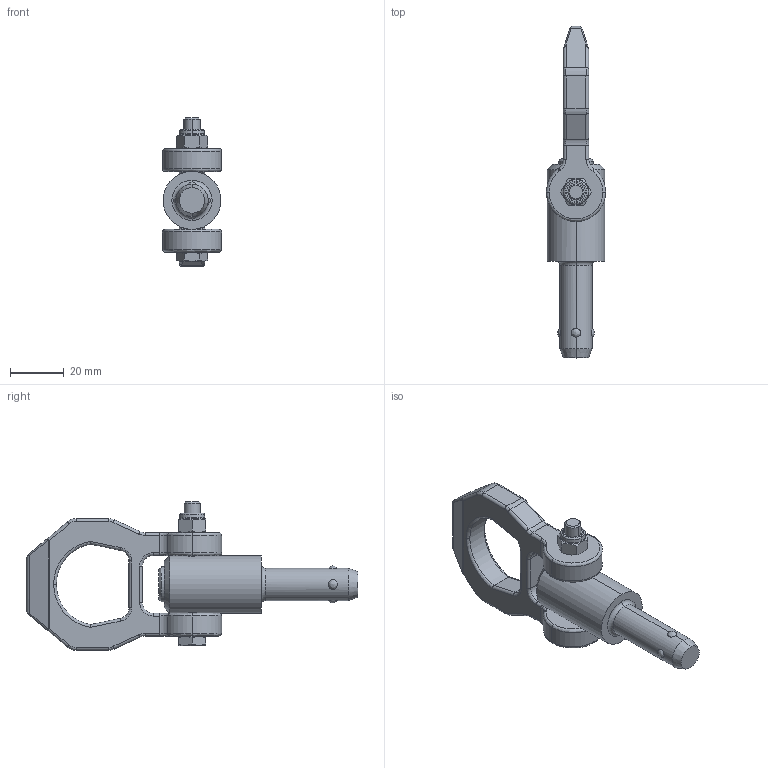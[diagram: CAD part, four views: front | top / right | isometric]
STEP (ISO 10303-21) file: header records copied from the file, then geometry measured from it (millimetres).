
FILE_DESCRIPTION (( 'STEP AP214' ), '1' );
FILE_NAME ('1130-12-25-NI.step', '2023-05-11T09:32:22', ( '' ), ( '' ), 'SwSTEP 2.0', 'SolidWorks 2022', '' );
FILE_SCHEMA (( 'AUTOMOTIVE_DESIGN' ));
Length unit declared in the file: millimetre
Products named in the file (3): Kopie von ring2^WB1130_NI; 1130-12-25-NI; Kopie von bolzen1^WB1130_NI_12-25-NI
Assembly tree (2 placements, depth 2):
  1130-12-25-NI
    Kopie von bolzen1^WB1130_NI_12-25-NI
    Kopie von ring2^WB1130_NI
Bounding box: 22 x 123.5 x 55.25 mm (x, y, z)
Volume: 36128.1 mm3; surface area: 12743.2 mm2
Topology: 2 solids, 2 shells, 244 faces, 607 edges, 375 vertices
Faces by surface type: plane 83, cylinder 77, bspline 52, cone 26, torus 6
Entity records: 9664 total; most frequent: CARTESIAN_POINT 4348, ORIENTED_EDGE 1214, DIRECTION 895, EDGE_CURVE 607, VERTEX_POINT 375, AXIS2_PLACEMENT_3D 333, EDGE_LOOP 258, ADVANCED_FACE 244
